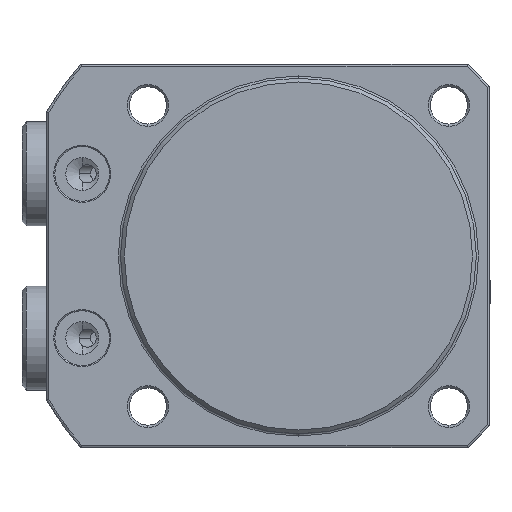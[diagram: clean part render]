
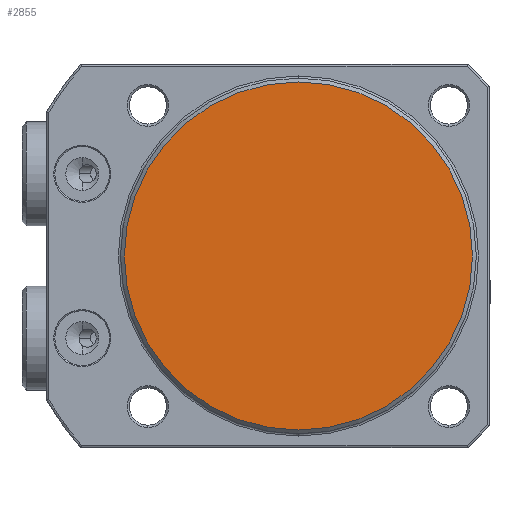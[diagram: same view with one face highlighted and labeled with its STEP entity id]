
A CAD part, front view. The second image highlights one B-rep face of the part: STEP entity #2855.
In plain terms, the highlighted planar face has unit normal (0, -1, 0) as drawn and (-1, 0, 0) by its records, which use the part's own axes.
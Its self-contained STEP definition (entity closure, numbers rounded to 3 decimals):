
#1666=PLANE('',#7610);
#2855=ADVANCED_FACE('',(#3220),#1666,.F.);
#3220=FACE_OUTER_BOUND('',#3614,.T.);
#3614=EDGE_LOOP('',(#5112));
#5112=ORIENTED_EDGE('',*,*,#6522,.T.);
#5732=VERTEX_POINT('',#12351);
#6522=EDGE_CURVE('',#5732,#5732,#6934,.T.);
#6934=CIRCLE('',#7609,31.8);
#7609=AXIS2_PLACEMENT_3D('',#12350,#9260,#9261);
#7610=AXIS2_PLACEMENT_3D('',#12352,#9262,#9263);
#9260=DIRECTION('',(-1.,0.,0.));
#9261=DIRECTION('',(0.,0.,-1.));
#9262=DIRECTION('',(1.,0.,0.));
#9263=DIRECTION('',(0.,0.,1.));
#12350=CARTESIAN_POINT('',(0.,0.,0.));
#12351=CARTESIAN_POINT('',(0.,0.,-31.8));
#12352=CARTESIAN_POINT('',(0.,0.,0.));
